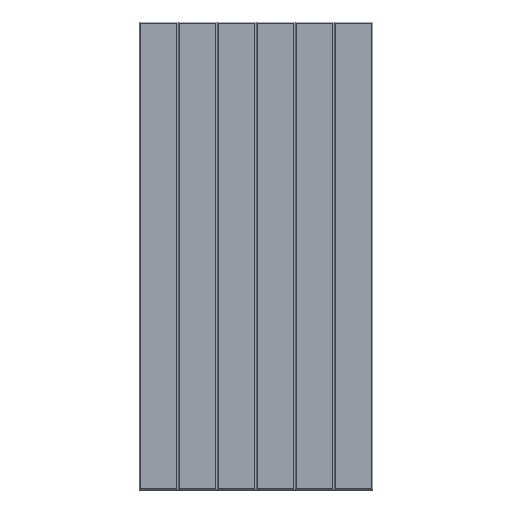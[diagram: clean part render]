
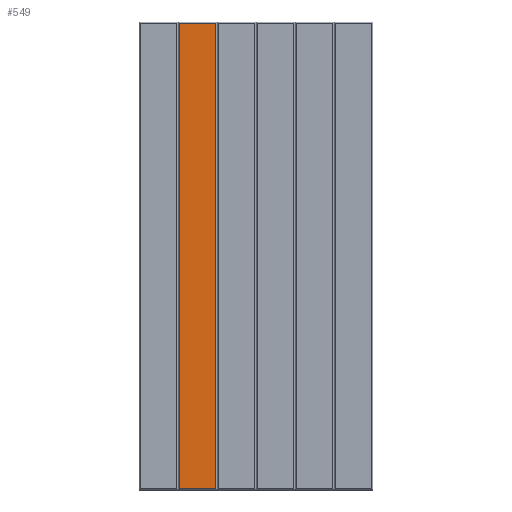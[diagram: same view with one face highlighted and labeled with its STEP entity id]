
A CAD part, top view. The second image highlights one B-rep face of the part: STEP entity #549.
In plain terms, the highlighted planar face has unit normal (0, 0, 1).
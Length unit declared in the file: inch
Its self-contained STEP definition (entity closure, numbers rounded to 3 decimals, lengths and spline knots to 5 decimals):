
#27=FACE_OUTER_BOUND('',#62,.T.);
#62=EDGE_LOOP('',(#400,#401,#402,#403));
#109=LINE('',#830,#184);
#113=LINE('',#839,#188);
#122=LINE('',#854,#197);
#123=LINE('',#855,#198);
#184=VECTOR('',#669,0.3937);
#188=VECTOR('',#677,0.3937);
#197=VECTOR('',#694,0.3937);
#198=VECTOR('',#695,0.3937);
#254=VERTEX_POINT('',#824);
#256=VERTEX_POINT('',#828);
#259=VERTEX_POINT('',#838);
#261=VERTEX_POINT('',#853);
#301=EDGE_CURVE('',#254,#256,#109,.T.);
#305=EDGE_CURVE('',#254,#259,#113,.T.);
#314=EDGE_CURVE('',#261,#256,#122,.T.);
#315=EDGE_CURVE('',#261,#259,#123,.T.);
#400=ORIENTED_EDGE('',*,*,#301,.T.);
#401=ORIENTED_EDGE('',*,*,#314,.F.);
#402=ORIENTED_EDGE('',*,*,#315,.T.);
#403=ORIENTED_EDGE('',*,*,#305,.F.);
#514=PLANE('',#606);
#549=ADVANCED_FACE('',(#27),#514,.T.);
#606=AXIS2_PLACEMENT_3D('',#852,#692,#693);
#669=DIRECTION('',(0.,1.,0.));
#677=DIRECTION('',(-1.,0.,0.));
#692=DIRECTION('center_axis',(0.,0.,1.));
#693=DIRECTION('ref_axis',(1.,0.,0.));
#694=DIRECTION('',(1.,0.,0.));
#695=DIRECTION('',(0.,-1.,0.));
#824=CARTESIAN_POINT('',(-8.25,-47.75,0.5));
#828=CARTESIAN_POINT('',(-8.25,47.75,0.5));
#830=CARTESIAN_POINT('',(-8.25,27.,0.5));
#838=CARTESIAN_POINT('',(-15.75,-47.75,0.5));
#839=CARTESIAN_POINT('',(-12.,-47.75,0.5));
#852=CARTESIAN_POINT('Origin',(0.,0.,0.5));
#853=CARTESIAN_POINT('',(-15.75,47.75,0.5));
#854=CARTESIAN_POINT('',(12.,47.75,0.5));
#855=CARTESIAN_POINT('',(-15.75,-27.,0.5));
